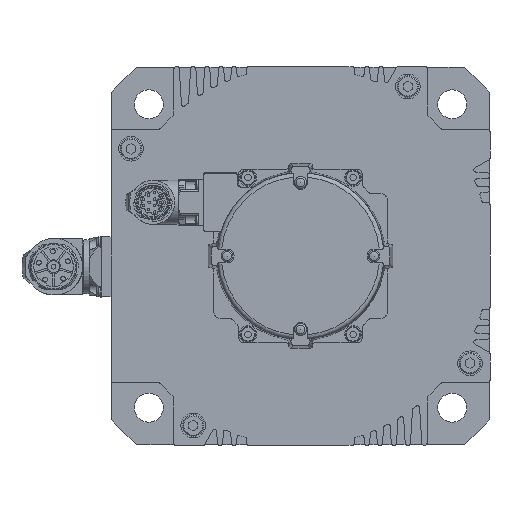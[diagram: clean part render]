
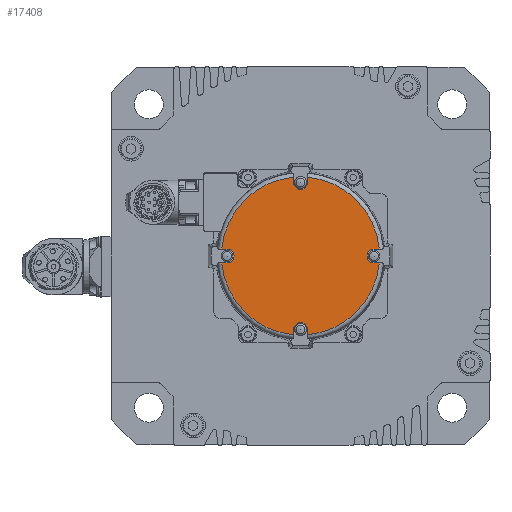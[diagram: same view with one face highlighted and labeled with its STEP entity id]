
A CAD part, left-side view. The second image highlights one B-rep face of the part: STEP entity #17408.
In plain terms, the highlighted planar face has unit normal (-1, 0, 0).
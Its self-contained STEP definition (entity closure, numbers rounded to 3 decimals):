
#734=LINE('',#26177,#2228);
#735=LINE('',#26182,#2229);
#736=LINE('',#26186,#2230);
#737=LINE('',#26190,#2231);
#738=LINE('',#26194,#2232);
#739=LINE('',#26198,#2233);
#740=LINE('',#26202,#2234);
#741=LINE('',#26206,#2235);
#2228=VECTOR('',#20613,1000.);
#2229=VECTOR('',#20616,1000.);
#2230=VECTOR('',#20619,1000.);
#2231=VECTOR('',#20622,1000.);
#2232=VECTOR('',#20625,1000.);
#2233=VECTOR('',#20628,1000.);
#2234=VECTOR('',#20631,1000.);
#2235=VECTOR('',#20634,1000.);
#3756=ORIENTED_EDGE('',*,*,#9003,.F.);
#3757=ORIENTED_EDGE('',*,*,#9004,.T.);
#3758=ORIENTED_EDGE('',*,*,#9005,.F.);
#3759=ORIENTED_EDGE('',*,*,#9006,.F.);
#3760=ORIENTED_EDGE('',*,*,#9007,.F.);
#3761=ORIENTED_EDGE('',*,*,#9008,.T.);
#3762=ORIENTED_EDGE('',*,*,#9009,.F.);
#3763=ORIENTED_EDGE('',*,*,#9010,.F.);
#3764=ORIENTED_EDGE('',*,*,#9011,.F.);
#3765=ORIENTED_EDGE('',*,*,#9012,.T.);
#3766=ORIENTED_EDGE('',*,*,#9013,.F.);
#3767=ORIENTED_EDGE('',*,*,#9014,.F.);
#3768=ORIENTED_EDGE('',*,*,#9015,.F.);
#3769=ORIENTED_EDGE('',*,*,#9016,.T.);
#3770=ORIENTED_EDGE('',*,*,#9017,.F.);
#3771=ORIENTED_EDGE('',*,*,#9018,.F.);
#9003=EDGE_CURVE('',#11626,#11627,#734,.T.);
#9004=EDGE_CURVE('',#11626,#11628,#13351,.T.);
#9005=EDGE_CURVE('',#11629,#11628,#735,.T.);
#9006=EDGE_CURVE('',#11630,#11629,#13352,.T.);
#9007=EDGE_CURVE('',#11631,#11630,#736,.T.);
#9008=EDGE_CURVE('',#11631,#11632,#13353,.T.);
#9009=EDGE_CURVE('',#11633,#11632,#737,.T.);
#9010=EDGE_CURVE('',#11634,#11633,#13354,.T.);
#9011=EDGE_CURVE('',#11635,#11634,#738,.T.);
#9012=EDGE_CURVE('',#11635,#11636,#13355,.T.);
#9013=EDGE_CURVE('',#11637,#11636,#739,.T.);
#9014=EDGE_CURVE('',#11638,#11637,#13356,.T.);
#9015=EDGE_CURVE('',#11639,#11638,#740,.T.);
#9016=EDGE_CURVE('',#11639,#11640,#13357,.T.);
#9017=EDGE_CURVE('',#11641,#11640,#741,.T.);
#9018=EDGE_CURVE('',#11627,#11641,#13358,.T.);
#11626=VERTEX_POINT('',#26178);
#11627=VERTEX_POINT('',#26179);
#11628=VERTEX_POINT('',#26181);
#11629=VERTEX_POINT('',#26183);
#11630=VERTEX_POINT('',#26185);
#11631=VERTEX_POINT('',#26187);
#11632=VERTEX_POINT('',#26189);
#11633=VERTEX_POINT('',#26191);
#11634=VERTEX_POINT('',#26193);
#11635=VERTEX_POINT('',#26195);
#11636=VERTEX_POINT('',#26197);
#11637=VERTEX_POINT('',#26199);
#11638=VERTEX_POINT('',#26201);
#11639=VERTEX_POINT('',#26203);
#11640=VERTEX_POINT('',#26205);
#11641=VERTEX_POINT('',#26207);
#13351=CIRCLE('',#18516,3.25);
#13352=CIRCLE('',#18517,36.85);
#13353=CIRCLE('',#18518,3.25);
#13354=CIRCLE('',#18519,36.85);
#13355=CIRCLE('',#18520,3.25);
#13356=CIRCLE('',#18521,36.85);
#13357=CIRCLE('',#18522,3.25);
#13358=CIRCLE('',#18523,36.85);
#14311=EDGE_LOOP('',(#3756,#3757,#3758,#3759,#3760,#3761,#3762,#3763,#3764,
#3765,#3766,#3767,#3768,#3769,#3770,#3771));
#15582=FACE_BOUND('',#14311,.T.);
#16842=PLANE('',#18515);
#17408=ADVANCED_FACE('',(#15582),#16842,.F.);
#18515=AXIS2_PLACEMENT_3D('',#26176,#20611,#20612);
#18516=AXIS2_PLACEMENT_3D('',#26180,#20614,#20615);
#18517=AXIS2_PLACEMENT_3D('',#26184,#20617,#20618);
#18518=AXIS2_PLACEMENT_3D('',#26188,#20620,#20621);
#18519=AXIS2_PLACEMENT_3D('',#26192,#20623,#20624);
#18520=AXIS2_PLACEMENT_3D('',#26196,#20626,#20627);
#18521=AXIS2_PLACEMENT_3D('',#26200,#20629,#20630);
#18522=AXIS2_PLACEMENT_3D('',#26204,#20632,#20633);
#18523=AXIS2_PLACEMENT_3D('',#26208,#20635,#20636);
#20611=DIRECTION('',(1.,0.,0.));
#20612=DIRECTION('',(0.,0.,-1.));
#20613=DIRECTION('',(0.,1.,0.));
#20614=DIRECTION('',(1.,0.,0.));
#20615=DIRECTION('',(0.,0.,-1.));
#20616=DIRECTION('',(0.,-1.,0.));
#20617=DIRECTION('',(1.,0.,0.));
#20618=DIRECTION('',(0.,0.,-1.));
#20619=DIRECTION('',(0.,0.,-1.));
#20620=DIRECTION('',(1.,0.,0.));
#20621=DIRECTION('',(0.,0.,-1.));
#20622=DIRECTION('',(0.,0.,1.));
#20623=DIRECTION('',(1.,0.,0.));
#20624=DIRECTION('',(0.,0.,-1.));
#20625=DIRECTION('',(0.,-1.,0.));
#20626=DIRECTION('',(1.,0.,0.));
#20627=DIRECTION('',(0.,0.,-1.));
#20628=DIRECTION('',(0.,1.,0.));
#20629=DIRECTION('',(1.,0.,0.));
#20630=DIRECTION('',(0.,0.,-1.));
#20631=DIRECTION('',(0.,0.,1.));
#20632=DIRECTION('',(1.,0.,0.));
#20633=DIRECTION('',(0.,0.,-1.));
#20634=DIRECTION('',(0.,0.,-1.));
#20635=DIRECTION('',(1.,0.,0.));
#20636=DIRECTION('',(0.,0.,-1.));
#26176=CARTESIAN_POINT('',(-163.,0.,0.));
#26177=CARTESIAN_POINT('',(-163.,34.25,3.25));
#26178=CARTESIAN_POINT('',(-163.,34.25,3.25));
#26179=CARTESIAN_POINT('',(-163.,36.706,3.25));
#26180=CARTESIAN_POINT('',(-163.,34.25,0.));
#26181=CARTESIAN_POINT('',(-163.,34.25,-3.25));
#26182=CARTESIAN_POINT('',(-163.,38.166,-3.25));
#26183=CARTESIAN_POINT('',(-163.,36.706,-3.25));
#26184=CARTESIAN_POINT('',(-163.,0.,0.));
#26185=CARTESIAN_POINT('',(-163.,3.25,-36.706));
#26186=CARTESIAN_POINT('',(-163.,3.25,-34.25));
#26187=CARTESIAN_POINT('',(-163.,3.25,-34.25));
#26188=CARTESIAN_POINT('',(-163.,0.,-34.25));
#26189=CARTESIAN_POINT('',(-163.,-3.25,-34.25));
#26190=CARTESIAN_POINT('',(-163.,-3.25,-38.166));
#26191=CARTESIAN_POINT('',(-163.,-3.25,-36.706));
#26192=CARTESIAN_POINT('',(-163.,0.,0.));
#26193=CARTESIAN_POINT('',(-163.,-36.706,-3.25));
#26194=CARTESIAN_POINT('',(-163.,-34.25,-3.25));
#26195=CARTESIAN_POINT('',(-163.,-34.25,-3.25));
#26196=CARTESIAN_POINT('',(-163.,-34.25,0.));
#26197=CARTESIAN_POINT('',(-163.,-34.25,3.25));
#26198=CARTESIAN_POINT('',(-163.,-38.166,3.25));
#26199=CARTESIAN_POINT('',(-163.,-36.706,3.25));
#26200=CARTESIAN_POINT('',(-163.,0.,0.));
#26201=CARTESIAN_POINT('',(-163.,-3.25,36.706));
#26202=CARTESIAN_POINT('',(-163.,-3.25,34.25));
#26203=CARTESIAN_POINT('',(-163.,-3.25,34.25));
#26204=CARTESIAN_POINT('',(-163.,0.,34.25));
#26205=CARTESIAN_POINT('',(-163.,3.25,34.25));
#26206=CARTESIAN_POINT('',(-163.,3.25,38.166));
#26207=CARTESIAN_POINT('',(-163.,3.25,36.706));
#26208=CARTESIAN_POINT('',(-163.,0.,0.));
